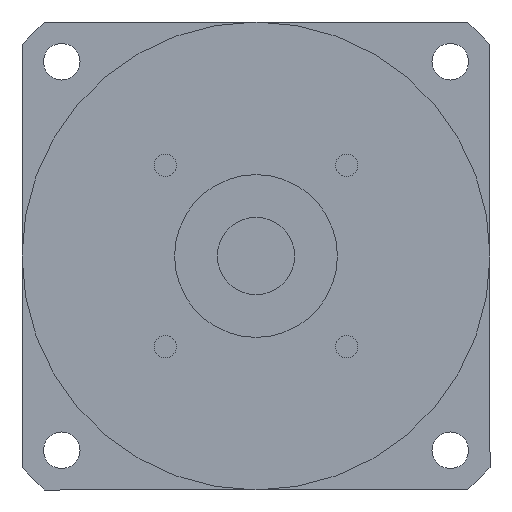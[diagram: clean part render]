
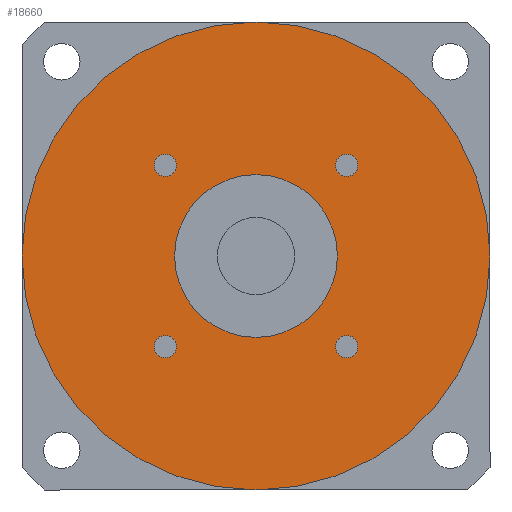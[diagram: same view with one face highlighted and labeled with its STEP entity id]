
A CAD part, left-side view. The second image highlights one B-rep face of the part: STEP entity #18660.
In plain terms, the highlighted planar face has unit normal (-1, 0, 0) as drawn and (0, 0, -1) by its records, which use the part's own axes.
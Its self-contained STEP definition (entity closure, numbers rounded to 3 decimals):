
#15860=CARTESIAN_POINT('',(-19.524,-22.274,-99.));
#15870=VERTEX_POINT('',#15860);
#16050=CARTESIAN_POINT('',(-25.024,-22.274,-99.));
#16060=VERTEX_POINT('',#16050);
#16090=CARTESIAN_POINT('',(-22.274,-22.274,-99.));
#16100=DIRECTION('',(0.,0.,1.));
#16110=DIRECTION('',(1.,0.,0.));
#16120=AXIS2_PLACEMENT_3D('',#16090,#16100,#16110);
#16130=CIRCLE('',#16120,2.75);
#16140=EDGE_CURVE('',#16060,#15870,#16130,.T.);
#16280=CARTESIAN_POINT('',(19.524,22.274,-99.));
#16290=VERTEX_POINT('',#16280);
#16370=CARTESIAN_POINT('',(25.024,22.274,-99.));
#16380=VERTEX_POINT('',#16370);
#16410=CARTESIAN_POINT('',(22.274,22.274,-99.));
#16420=DIRECTION('',(0.,0.,1.));
#16430=DIRECTION('',(-1.,0.,0.));
#16440=AXIS2_PLACEMENT_3D('',#16410,#16420,#16430);
#16450=CIRCLE('',#16440,2.75);
#16460=EDGE_CURVE('',#16380,#16290,#16450,.T.);
#17730=CARTESIAN_POINT('',(57.5,0.,-99.));
#17740=VERTEX_POINT('',#17730);
#17770=CARTESIAN_POINT('',(0.,0.,
-99.));
#17780=DIRECTION('',(0.,0.,1.));
#17790=DIRECTION('',(0.,-1.,0.));
#17800=AXIS2_PLACEMENT_3D('',#17770,#17780,#17790);
#17810=CIRCLE('',#17800,57.5);
#17820=CARTESIAN_POINT('',(0.,-57.5,-99.));
#17830=VERTEX_POINT('',#17820);
#17840=EDGE_CURVE('',#17830,#17740,#17810,.T.);
#17860=CARTESIAN_POINT('',(-57.5,0.,-99.));
#17870=VERTEX_POINT('',#17860);
#17880=EDGE_CURVE('',#17870,#17830,#17810,.T.);
#18000=CARTESIAN_POINT('',(0.,0.,
-99.));
#18010=DIRECTION('',(0.,0.,1.));
#18020=DIRECTION('',(-1.,0.,0.));
#18030=AXIS2_PLACEMENT_3D('',#18000,#18010,#18020);
#18040=PLANE('',#18030);
#18050=CARTESIAN_POINT('',(0.,0.,
-99.));
#18060=DIRECTION('',(0.,0.,1.));
#18070=DIRECTION('',(1.,0.,0.));
#18080=AXIS2_PLACEMENT_3D('',#18050,#18060,#18070);
#18090=CIRCLE('',#18080,20.);
#18100=CARTESIAN_POINT('',(20.,0.,-99.));
#18110=VERTEX_POINT('',#18100);
#18120=CARTESIAN_POINT('',(-20.,0.,-99.));
#18130=VERTEX_POINT('',#18120);
#18140=EDGE_CURVE('',#18110,#18130,#18090,.T.);
#18150=ORIENTED_EDGE('',*,*,#18140,.T.);
#18160=EDGE_CURVE('',#18130,#18110,#18090,.T.);
#18170=ORIENTED_EDGE('',*,*,#18160,.T.);
#18180=EDGE_LOOP('',(#18170,#18150));
#18190=FACE_BOUND('',#18180,.T.);
#18200=CARTESIAN_POINT('',(22.274,-22.274,-99.));
#18210=DIRECTION('',(0.,0.,1.));
#18220=DIRECTION('',(0.,1.,0.));
#18230=AXIS2_PLACEMENT_3D('',#18200,#18210,#18220);
#18240=CIRCLE('',#18230,2.75);
#18250=CARTESIAN_POINT('',(22.274,-19.524,-99.));
#18260=VERTEX_POINT('',#18250);
#18270=CARTESIAN_POINT('',(22.274,-25.024,-99.));
#18280=VERTEX_POINT('',#18270);
#18290=EDGE_CURVE('',#18260,#18280,#18240,.T.);
#18300=ORIENTED_EDGE('',*,*,#18290,.T.);
#18310=EDGE_CURVE('',#18280,#18260,#18240,.T.);
#18320=ORIENTED_EDGE('',*,*,#18310,.T.);
#18330=EDGE_LOOP('',(#18320,#18300));
#18340=FACE_BOUND('',#18330,.T.);
#18350=EDGE_CURVE('',#16290,#16380,#16450,.T.);
#18360=ORIENTED_EDGE('',*,*,#18350,.T.);
#18370=ORIENTED_EDGE('',*,*,#16460,.T.);
#18380=EDGE_LOOP('',(#18370,#18360));
#18390=FACE_BOUND('',#18380,.T.);
#18400=CARTESIAN_POINT('',(-22.274,22.274,-99.));
#18410=DIRECTION('',(0.,0.,1.));
#18420=DIRECTION('',(0.,-1.,0.));
#18430=AXIS2_PLACEMENT_3D('',#18400,#18410,#18420);
#18440=CIRCLE('',#18430,2.75);
#18450=CARTESIAN_POINT('',(-22.274,19.524,-99.));
#18460=VERTEX_POINT('',#18450);
#18470=CARTESIAN_POINT('',(-22.274,25.024,-99.));
#18480=VERTEX_POINT('',#18470);
#18490=EDGE_CURVE('',#18460,#18480,#18440,.T.);
#18500=ORIENTED_EDGE('',*,*,#18490,.T.);
#18510=EDGE_CURVE('',#18480,#18460,#18440,.T.);
#18520=ORIENTED_EDGE('',*,*,#18510,.T.);
#18530=EDGE_LOOP('',(#18520,#18500));
#18540=FACE_BOUND('',#18530,.T.);
#18550=EDGE_CURVE('',#15870,#16060,#16130,.T.);
#18560=ORIENTED_EDGE('',*,*,#18550,.T.);
#18570=ORIENTED_EDGE('',*,*,#16140,.T.);
#18580=EDGE_LOOP('',(#18570,#18560));
#18590=FACE_BOUND('',#18580,.T.);
#18600=ORIENTED_EDGE('',*,*,#17840,.F.);
#18610=EDGE_CURVE('',#17740,#17870,#17810,.T.);
#18620=ORIENTED_EDGE('',*,*,#18610,.F.);
#18630=ORIENTED_EDGE('',*,*,#17880,.F.);
#18640=EDGE_LOOP('',(#18630,#18620,#18600));
#18650=FACE_OUTER_BOUND('',#18640,.T.);
#18660=ADVANCED_FACE('',(#18190,#18340,#18390,#18540,#18590,#18650),
#18040,.F.);
